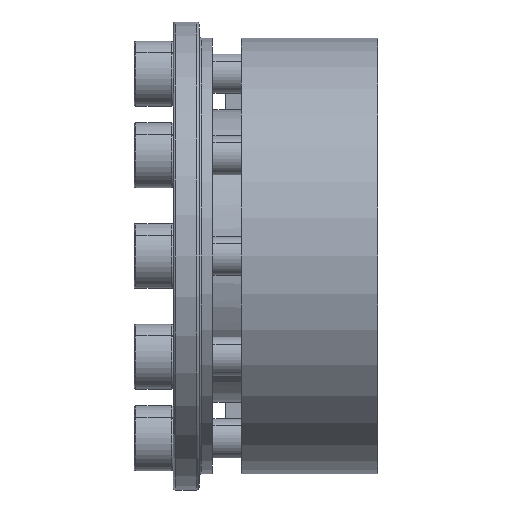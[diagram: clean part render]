
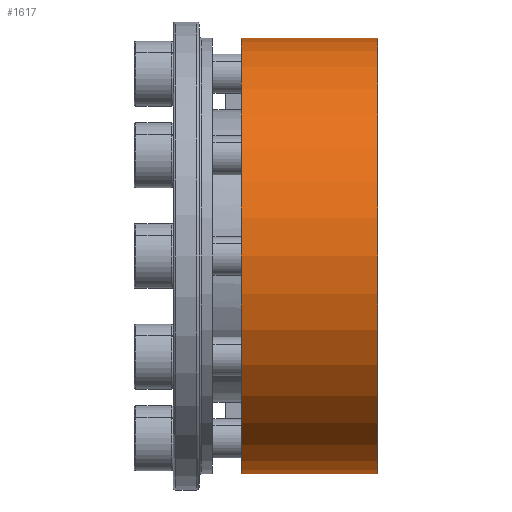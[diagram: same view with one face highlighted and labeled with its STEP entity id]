
A CAD part, front view. The second image highlights one B-rep face of the part: STEP entity #1617.
In plain terms, the highlighted cylindrical face has radius 33.5 mm (diameter 67 mm), a partial arc.
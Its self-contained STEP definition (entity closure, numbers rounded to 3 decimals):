
#422 = CARTESIAN_POINT ( 'NONE',  ( 15.75, 0., 33.5 ) ) ;
#603 = VERTEX_POINT ( 'NONE', #422 ) ;
#934 = VECTOR ( 'NONE', #8180, 1000. ) ;
#972 = CYLINDRICAL_SURFACE ( 'NONE', #3498, 33.5 ) ;
#1433 = FACE_OUTER_BOUND ( 'NONE', #2543, .T. ) ;
#1547 = LINE ( 'NONE', #6194, #1668 ) ;
#1617 = ADVANCED_FACE ( 'NONE', ( #1433 ), #972, .T. ) ;
#1668 = VECTOR ( 'NONE', #3983, 1000. ) ;
#1829 = EDGE_CURVE ( 'NONE', #603, #2894, #1547, .T. ) ;
#2167 = ORIENTED_EDGE ( 'NONE', *, *, #4499, .F. ) ;
#2170 = DIRECTION ( 'NONE',  ( -1., 0., 0. ) ) ;
#2259 = CARTESIAN_POINT ( 'NONE',  ( -5.25, 0., -33.5 ) ) ;
#2488 = CARTESIAN_POINT ( 'NONE',  ( 15.75, 0., -33.5 ) ) ;
#2543 = EDGE_LOOP ( 'NONE', ( #7803, #7254, #3473, #2167 ) ) ;
#2778 = CIRCLE ( 'NONE', #8177, 33.5 ) ;
#2894 = VERTEX_POINT ( 'NONE', #7618 ) ;
#3431 = EDGE_CURVE ( 'NONE', #6312, #9306, #3469, .T. ) ;
#3469 = LINE ( 'NONE', #8972, #934 ) ;
#3473 = ORIENTED_EDGE ( 'NONE', *, *, #1829, .T. ) ;
#3498 = AXIS2_PLACEMENT_3D ( 'NONE', #8111, #4373, #4490 ) ;
#3983 = DIRECTION ( 'NONE',  ( -1., 0., 0. ) ) ;
#4373 = DIRECTION ( 'NONE',  ( -1., 0., 0. ) ) ;
#4490 = DIRECTION ( 'NONE',  ( 0., 0., 1. ) ) ;
#4499 = EDGE_CURVE ( 'NONE', #9306, #2894, #2778, .T. ) ;
#4942 = DIRECTION ( 'NONE',  ( -1., 0., 0. ) ) ;
#5029 = CIRCLE ( 'NONE', #5048, 33.5 ) ;
#5048 = AXIS2_PLACEMENT_3D ( 'NONE', #6576, #2170, #7326 ) ;
#5698 = DIRECTION ( 'NONE',  ( 0., 0., 1. ) ) ;
#5776 = CARTESIAN_POINT ( 'NONE',  ( -5.25, 0., 0. ) ) ;
#6182 = EDGE_CURVE ( 'NONE', #6312, #603, #5029, .T. ) ;
#6194 = CARTESIAN_POINT ( 'NONE',  ( -15.75, 0., 33.5 ) ) ;
#6312 = VERTEX_POINT ( 'NONE', #2488 ) ;
#6576 = CARTESIAN_POINT ( 'NONE',  ( 15.75, 0., 0. ) ) ;
#7254 = ORIENTED_EDGE ( 'NONE', *, *, #6182, .T. ) ;
#7326 = DIRECTION ( 'NONE',  ( 0., 0., 1. ) ) ;
#7618 = CARTESIAN_POINT ( 'NONE',  ( -5.25, 0., 33.5 ) ) ;
#7803 = ORIENTED_EDGE ( 'NONE', *, *, #3431, .F. ) ;
#8111 = CARTESIAN_POINT ( 'NONE',  ( -15.75, 0., 0. ) ) ;
#8177 = AXIS2_PLACEMENT_3D ( 'NONE', #5776, #4942, #5698 ) ;
#8180 = DIRECTION ( 'NONE',  ( -1., 0., 0. ) ) ;
#8972 = CARTESIAN_POINT ( 'NONE',  ( -15.75, 0., -33.5 ) ) ;
#9306 = VERTEX_POINT ( 'NONE', #2259 ) ;
